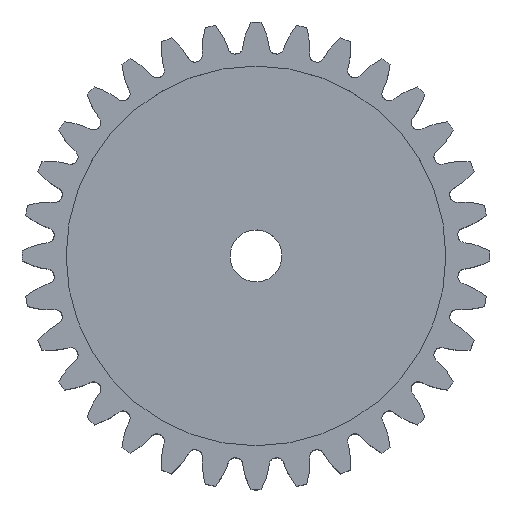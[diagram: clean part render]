
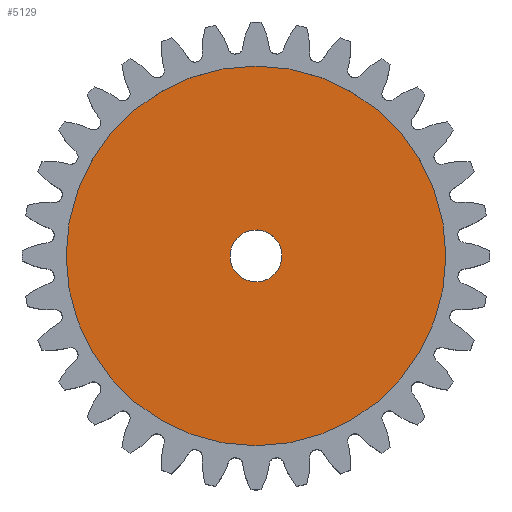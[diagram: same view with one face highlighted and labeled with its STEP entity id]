
A CAD part, top view. The second image highlights one B-rep face of the part: STEP entity #5129.
In plain terms, the highlighted planar face has unit normal (0, 0, 1).
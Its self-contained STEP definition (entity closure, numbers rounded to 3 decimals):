
#415 = DIRECTION ( 'NONE',  ( 0., 0., 1. ) ) ;
#528 = CARTESIAN_POINT ( 'NONE',  ( 0., 0., 4.826 ) ) ;
#629 = DIRECTION ( 'NONE',  ( 0., 0., 1. ) ) ;
#751 = CIRCLE ( 'NONE', #1666, 10.954 ) ;
#988 = DIRECTION ( 'NONE',  ( 0., 0., 1. ) ) ;
#1095 = AXIS2_PLACEMENT_3D ( 'NONE', #528, #12387, #10975 ) ;
#1490 = ORIENTED_EDGE ( 'NONE', *, *, #9658, .T. ) ;
#1592 = CARTESIAN_POINT ( 'NONE',  ( -0.478, 13.088, 4.826 ) ) ;
#1666 = AXIS2_PLACEMENT_3D ( 'NONE', #11488, #988, #3657 ) ;
#2144 = FACE_BOUND ( 'NONE', #2816, .T. ) ;
#2202 = EDGE_LOOP ( 'NONE', ( #1490, #3826 ) ) ;
#2310 = CIRCLE ( 'NONE', #3666, 1.5 ) ;
#2802 = CARTESIAN_POINT ( 'NONE',  ( -10.954, 0., 4.826 ) ) ;
#2816 = EDGE_LOOP ( 'NONE', ( #11563, #5418 ) ) ;
#3139 = CARTESIAN_POINT ( 'NONE',  ( 1.489, 0.184, 4.826 ) ) ;
#3276 = AXIS2_PLACEMENT_3D ( 'NONE', #7045, #415, #8133 ) ;
#3325 = CARTESIAN_POINT ( 'NONE',  ( -1.489, -0.184, 4.826 ) ) ;
#3657 = DIRECTION ( 'NONE',  ( -1., 0., 0. ) ) ;
#3666 = AXIS2_PLACEMENT_3D ( 'NONE', #13661, #629, #5867 ) ;
#3826 = ORIENTED_EDGE ( 'NONE', *, *, #14163, .T. ) ;
#4204 = VERTEX_POINT ( 'NONE', #11956 ) ;
#5129 = ADVANCED_FACE ( 'NONE', ( #6634, #2144 ), #9433, .F. ) ;
#5418 = ORIENTED_EDGE ( 'NONE', *, *, #6647, .F. ) ;
#5680 = DIRECTION ( 'NONE',  ( -1., 0., 0. ) ) ;
#5867 = DIRECTION ( 'NONE',  ( -1., 0., 0. ) ) ;
#6215 = VERTEX_POINT ( 'NONE', #2802 ) ;
#6634 = FACE_OUTER_BOUND ( 'NONE', #2202, .T. ) ;
#6647 = EDGE_CURVE ( 'NONE', #12569, #9005, #2310, .T. ) ;
#7045 = CARTESIAN_POINT ( 'NONE',  ( 0., 0., 4.826 ) ) ;
#8133 = DIRECTION ( 'NONE',  ( -1., 0., 0. ) ) ;
#8227 = DIRECTION ( 'NONE',  ( 0., 0., -1. ) ) ;
#9005 = VERTEX_POINT ( 'NONE', #3139 ) ;
#9433 = PLANE ( 'NONE',  #10246 ) ;
#9658 = EDGE_CURVE ( 'NONE', #4204, #6215, #751, .T. ) ;
#9945 = EDGE_CURVE ( 'NONE', #9005, #12569, #11726, .T. ) ;
#10246 = AXIS2_PLACEMENT_3D ( 'NONE', #1592, #8227, #5680 ) ;
#10601 = CIRCLE ( 'NONE', #3276, 10.954 ) ;
#10975 = DIRECTION ( 'NONE',  ( -1., 0., 0. ) ) ;
#11488 = CARTESIAN_POINT ( 'NONE',  ( 0., 0., 4.826 ) ) ;
#11563 = ORIENTED_EDGE ( 'NONE', *, *, #9945, .F. ) ;
#11726 = CIRCLE ( 'NONE', #1095, 1.5 ) ;
#11956 = CARTESIAN_POINT ( 'NONE',  ( 10.954, 0., 4.826 ) ) ;
#12387 = DIRECTION ( 'NONE',  ( 0., 0., 1. ) ) ;
#12569 = VERTEX_POINT ( 'NONE', #3325 ) ;
#13661 = CARTESIAN_POINT ( 'NONE',  ( 0., 0., 4.826 ) ) ;
#14163 = EDGE_CURVE ( 'NONE', #6215, #4204, #10601, .T. ) ;
